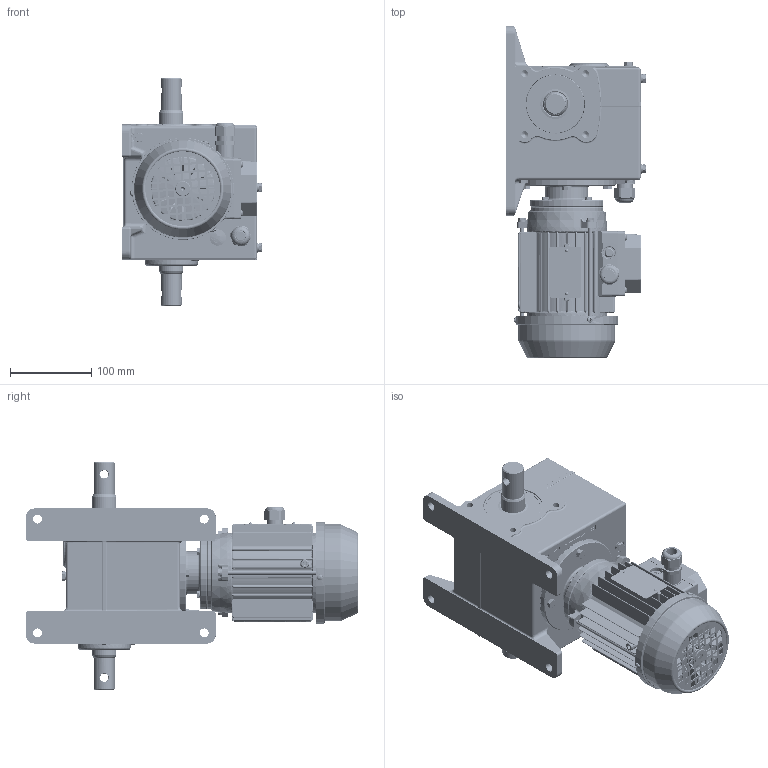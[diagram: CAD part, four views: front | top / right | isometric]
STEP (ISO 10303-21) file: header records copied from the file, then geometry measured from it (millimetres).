
FILE_DESCRIPTION (( 'STEP AP214' ), '1' );
FILE_NAME ('Elektroantrieb_EWA_10149252.STEP', '2021-01-21T06:59:16', ( '' ), ( '' ), 'SwSTEP 2.0', 'SolidWorks 2020', '' );
FILE_SCHEMA (( 'AUTOMOTIVE_DESIGN' ));
Length unit declared in the file: millimetre
Products named in the file (28): 010200597_Normteil_Kaufteil_3D__DE_DIN EN 24017 - M5 x 16-N; Elektroteil_10001640; Baugruppe_10030527; Kennzeichnung_10001854; Elektroteil_10028709; 010183301__3D-Teil_DE_90000.0002.5790_10183301; Elektroantrieb_EWA_10149252; 010193006_EWA_10_3D-Modell_DE_10193006_END 20-90000.0002.6299 m.s.B.; Elektroantrieb_EWA_10030604_ohne Inhalt; Schnecke_10176114; Welle_10000647; 010194838__3D-Modell_DE_90000.0002.5893_10194838; Elektroteil_10001639; 010200577_EWA_10_3D__DE; Wälzlager_10030655; Schraube_10018291; Dichtelement_10005546; 010200576_EWA_10_3D__DE_ohne Inhalt; Schraube_10002078; Dichtelement_10001203; Schraube_10014320; Deckel_10000048; 010197604_EWA_3D-Modell_DE_10197604; Scheibe_10002061; Elektroteil_10007290; Wälzlager_10001868; 010202066_EWA_3D__DE; 010191515_Normteil_Kaufteil_3D-Modell_DE_10191515
Assembly tree (47 placements, depth 4):
  Elektroantrieb_EWA_10149252
    Elektroantrieb_EWA_10030604_ohne Inhalt
      010193006_EWA_10_3D-Modell_DE_10193006_END 20-90000.0002.6299 m.s.B.
      Deckel_10000048
      Schraube_10018291  x4
      Dichtelement_10001203
      010194838__3D-Modell_DE_90000.0002.5893_10194838
        Schnecke_10176114
      Wälzlager_10030655
      Dichtelement_10005546
      Scheibe_10002061  x8
      010191515_Normteil_Kaufteil_3D-Modell_DE_10191515  x4
      010183301__3D-Teil_DE_90000.0002.5790_10183301
      Wälzlager_10001868
      Baugruppe_10030527
        Welle_10000647
      Elektroteil_10028709
      Elektroteil_10007290
        Elektroteil_10001639
        Elektroteil_10001640
    Schraube_10014320
    Schraube_10002078  x4
    Scheibe_10002061
    Kennzeichnung_10001854
    010200576_EWA_10_3D__DE_ohne Inhalt
      010200577_EWA_10_3D__DE
      010197604_EWA_3D-Modell_DE_10197604
      010200597_Normteil_Kaufteil_3D__DE_DIN EN 24017 - M5 x 16-N  x4
    010202066_EWA_3D__DE
Bounding box: 171 x 408 x 280 mm (x, y, z)
Volume: 1868881.3 mm3; surface area: 818284.3 mm2
Topology: 89 solids, 92 shells, 7497 faces, 19153 edges, 12008 vertices
Faces by surface type: plane 2881, bspline 1618, cylinder 1484, cone 742, torus 605, sphere 167
Entity records: 459986 total; most frequent: CARTESIAN_POINT 241808, ORIENTED_EDGE 36286, DIRECTION 28320, EDGE_CURVE 18143, VERTEX_POINT 11509, AXIS2_PLACEMENT_3D 9757, LINE 8806, VECTOR 8806
